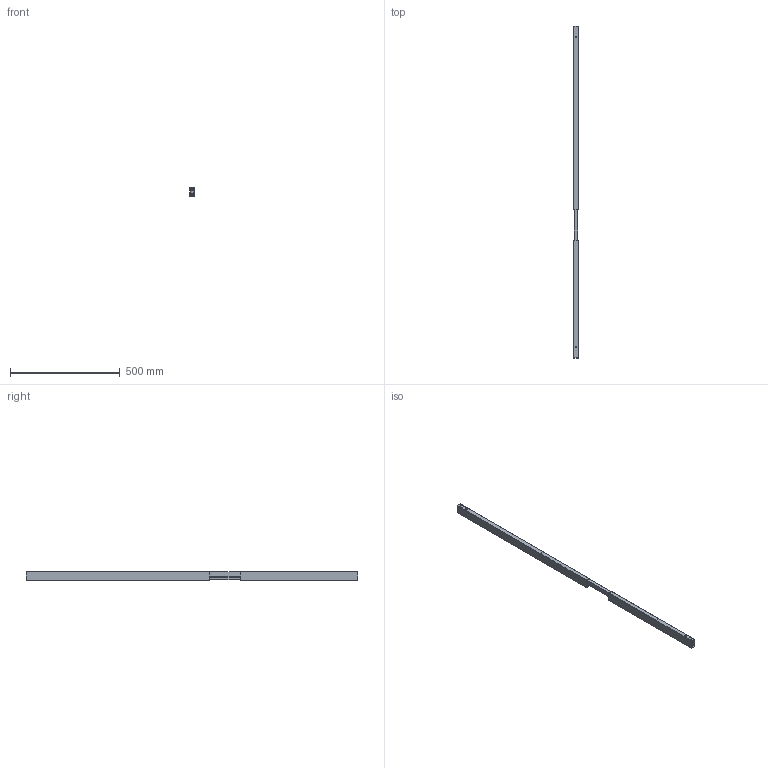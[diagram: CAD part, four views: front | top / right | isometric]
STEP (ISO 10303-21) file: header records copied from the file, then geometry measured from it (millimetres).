
FILE_DESCRIPTION( ( 'STEP AP214' ), '1' );
FILE_NAME( 'D:/Yug/2021/Delta/desk_and_office_organisation/QC/46021.stp', '2021-01-22T12:07:37', ( '' ), ( '' ), ' ', 'PARTsolutions', ' ' );
FILE_SCHEMA( ( 'AUTOMOTIVE_DESIGN { 1 0 10303 214 1 1 1 1 }' ) );
Length unit declared in the file: millimetre
Products named in the file (4): 46021; _46021_1; _46021_3; _46014_2
Assembly tree (3 placements, depth 2):
  46021
    _46021_1
    _46021_3
    _46014_2
Bounding box: 20 x 1510 x 40 mm (x, y, z)
Volume: 330398.6 mm3; surface area: 435553.9 mm2
Topology: 3 solids, 3 shells, 71 faces, 209 edges, 144 vertices
Faces by surface type: cylinder 37, plane 34
Full cylindrical faces by diameter (mm): 3 x15, 4 x4, 8 x4, 8.3 x4, 9 x8, 14.5 x2
Entity records: 3420 total; most frequent: CARTESIAN_POINT 915, DIRECTION 366, ORIENTED_EDGE 316, EDGE_LOOP 186, EDGE_CURVE 158, AXIS2_PLACEMENT_3D 141, VERTEX_POINT 130, FACE_OUTER_BOUND 108
